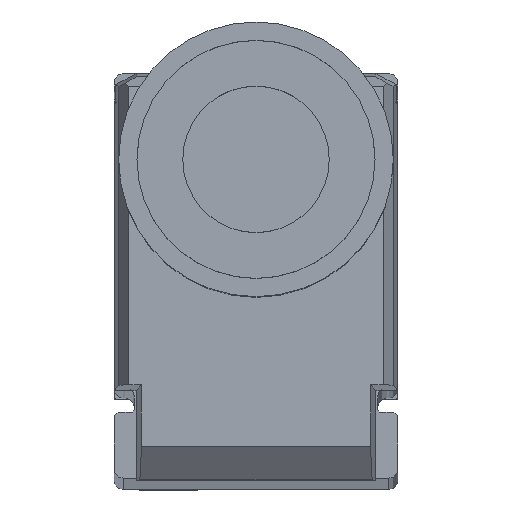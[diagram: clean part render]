
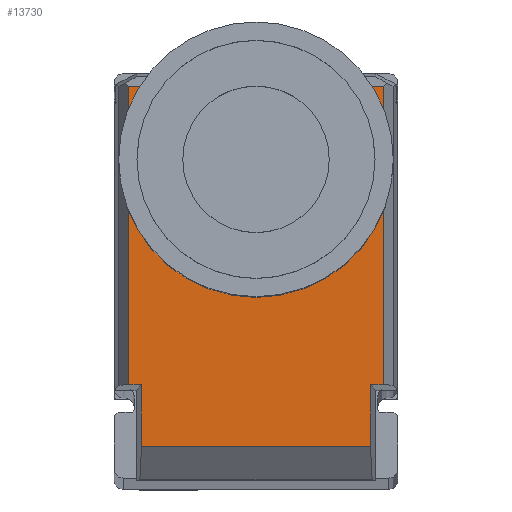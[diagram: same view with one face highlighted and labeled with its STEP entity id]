
A CAD part, top view. The second image highlights one B-rep face of the part: STEP entity #13730.
In plain terms, the highlighted planar face has unit normal (0, 0, 1) as drawn and (0, 0, -1) by its records, which use the part's own axes.
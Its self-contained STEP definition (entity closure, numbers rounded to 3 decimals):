
#43 = CARTESIAN_POINT ( 'NONE',  ( 5.6, 0., -17. ) ) ;
#576 = CARTESIAN_POINT ( 'NONE',  ( 10.502, -7.488, -17. ) ) ;
#652 = VECTOR ( 'NONE', #18926, 1000. ) ;
#731 = DIRECTION ( 'NONE',  ( 1., 0., 0. ) ) ;
#993 = EDGE_CURVE ( 'NONE', #13528, #6716, #11515, .T. ) ;
#1560 = CIRCLE ( 'NONE', #8597, 4.9 ) ;
#1691 = DIRECTION ( 'NONE',  ( 1., 0., 0. ) ) ;
#2426 = VECTOR ( 'NONE', #16534, 1000. ) ;
#2774 = ORIENTED_EDGE ( 'NONE', *, *, #993, .T. ) ;
#3087 = VECTOR ( 'NONE', #11046, 1000. ) ;
#3117 = CARTESIAN_POINT ( 'NONE',  ( 10.502, 6.952, -17. ) ) ;
#3454 = EDGE_LOOP ( 'NONE', ( #7232, #11538 ) ) ;
#3485 = VERTEX_POINT ( 'NONE', #14967 ) ;
#3945 = CARTESIAN_POINT ( 'NONE',  ( 11.038, -7.488, -17. ) ) ;
#4127 = LINE ( 'NONE', #15927, #16610 ) ;
#4505 = DIRECTION ( 'NONE',  ( -1., 0., 0. ) ) ;
#4864 = VERTEX_POINT ( 'NONE', #7562 ) ;
#4946 = ORIENTED_EDGE ( 'NONE', *, *, #12265, .T. ) ;
#5177 = DIRECTION ( 'NONE',  ( 0., 1., 0. ) ) ;
#5492 = DIRECTION ( 'NONE',  ( 1., 0., 0. ) ) ;
#5870 = CARTESIAN_POINT ( 'NONE',  ( 11.038, 6.952, -17. ) ) ;
#6500 = EDGE_CURVE ( 'NONE', #16803, #13528, #11766, .T. ) ;
#6651 = LINE ( 'NONE', #15273, #11040 ) ;
#6716 = VERTEX_POINT ( 'NONE', #19846 ) ;
#7181 = VECTOR ( 'NONE', #9128, 1000. ) ;
#7232 = ORIENTED_EDGE ( 'NONE', *, *, #7874, .F. ) ;
#7414 = ORIENTED_EDGE ( 'NONE', *, *, #7784, .T. ) ;
#7562 = CARTESIAN_POINT ( 'NONE',  ( -5.803, 6.253, -17. ) ) ;
#7784 = EDGE_CURVE ( 'NONE', #14926, #16803, #4127, .T. ) ;
#7874 = EDGE_CURVE ( 'NONE', #7929, #7882, #1560, .T. ) ;
#7882 = VERTEX_POINT ( 'NONE', #8185 ) ;
#7929 = VERTEX_POINT ( 'NONE', #19736 ) ;
#7982 = ORIENTED_EDGE ( 'NONE', *, *, #15675, .T. ) ;
#8048 = CARTESIAN_POINT ( 'NONE',  ( 5.6, 0., -17. ) ) ;
#8185 = CARTESIAN_POINT ( 'NONE',  ( 0.7, 0., -17. ) ) ;
#8534 = ORIENTED_EDGE ( 'NONE', *, *, #13461, .T. ) ;
#8597 = AXIS2_PLACEMENT_3D ( 'NONE', #43, #11467, #1691 ) ;
#8840 = EDGE_CURVE ( 'NONE', #4864, #3485, #21156, .T. ) ;
#9128 = DIRECTION ( 'NONE',  ( -1., 0., 0. ) ) ;
#9680 = DIRECTION ( 'NONE',  ( 1., 0., 0. ) ) ;
#9804 = VERTEX_POINT ( 'NONE', #3117 ) ;
#9828 = EDGE_CURVE ( 'NONE', #7882, #7929, #20404, .T. ) ;
#10268 = VERTEX_POINT ( 'NONE', #20815 ) ;
#10426 = PLANE ( 'NONE',  #15482 ) ;
#10500 = DIRECTION ( 'NONE',  ( 0., 0., 1. ) ) ;
#11040 = VECTOR ( 'NONE', #5492, 1000. ) ;
#11046 = DIRECTION ( 'NONE',  ( 0., 1., 0. ) ) ;
#11104 = LINE ( 'NONE', #576, #2426 ) ;
#11170 = EDGE_CURVE ( 'NONE', #9804, #14926, #11104, .T. ) ;
#11467 = DIRECTION ( 'NONE',  ( 0., 0., -1. ) ) ;
#11515 = LINE ( 'NONE', #20544, #7181 ) ;
#11538 = ORIENTED_EDGE ( 'NONE', *, *, #9828, .F. ) ;
#11756 = ORIENTED_EDGE ( 'NONE', *, *, #8840, .T. ) ;
#11766 = LINE ( 'NONE', #19173, #3087 ) ;
#12265 = EDGE_CURVE ( 'NONE', #10268, #4864, #6651, .T. ) ;
#12875 = DIRECTION ( 'NONE',  ( 0., 1., 0. ) ) ;
#12934 = ORIENTED_EDGE ( 'NONE', *, *, #11170, .T. ) ;
#12942 = CARTESIAN_POINT ( 'NONE',  ( -5.803, -6.253, -17. ) ) ;
#13385 = LINE ( 'NONE', #21010, #17724 ) ;
#13461 = EDGE_CURVE ( 'NONE', #6716, #10268, #13385, .T. ) ;
#13528 = VERTEX_POINT ( 'NONE', #12942 ) ;
#13730 = ADVANCED_FACE ( 'NONE', ( #17944, #18480 ), #10426, .F. ) ;
#13883 = AXIS2_PLACEMENT_3D ( 'NONE', #8048, #19454, #9680 ) ;
#14203 = LINE ( 'NONE', #5870, #652 ) ;
#14926 = VERTEX_POINT ( 'NONE', #21086 ) ;
#14967 = CARTESIAN_POINT ( 'NONE',  ( -5.803, 6.952, -17. ) ) ;
#15273 = CARTESIAN_POINT ( 'NONE',  ( 11.038, 6.253, -17. ) ) ;
#15388 = EDGE_LOOP ( 'NONE', ( #2774, #8534, #4946, #11756, #7982, #12934, #7414, #17227 ) ) ;
#15482 = AXIS2_PLACEMENT_3D ( 'NONE', #3945, #10500, #731 ) ;
#15675 = EDGE_CURVE ( 'NONE', #3485, #9804, #14203, .T. ) ;
#15927 = CARTESIAN_POINT ( 'NONE',  ( 11.038, -6.952, -17. ) ) ;
#16534 = DIRECTION ( 'NONE',  ( 0., -1., 0. ) ) ;
#16588 = CARTESIAN_POINT ( 'NONE',  ( -5.803, 6.55, -17. ) ) ;
#16610 = VECTOR ( 'NONE', #4505, 1000. ) ;
#16803 = VERTEX_POINT ( 'NONE', #18350 ) ;
#17227 = ORIENTED_EDGE ( 'NONE', *, *, #6500, .T. ) ;
#17356 = VECTOR ( 'NONE', #5177, 1000. ) ;
#17724 = VECTOR ( 'NONE', #12875, 1000. ) ;
#17944 = FACE_OUTER_BOUND ( 'NONE', #15388, .T. ) ;
#18350 = CARTESIAN_POINT ( 'NONE',  ( -5.803, -6.952, -17. ) ) ;
#18480 = FACE_BOUND ( 'NONE', #3454, .T. ) ;
#18926 = DIRECTION ( 'NONE',  ( 1., 0., 0. ) ) ;
#19173 = CARTESIAN_POINT ( 'NONE',  ( -5.803, -7.488, -17. ) ) ;
#19454 = DIRECTION ( 'NONE',  ( 0., 0., -1. ) ) ;
#19736 = CARTESIAN_POINT ( 'NONE',  ( 10.5, 0., -17. ) ) ;
#19846 = CARTESIAN_POINT ( 'NONE',  ( -9.182, -6.253, -17. ) ) ;
#20404 = CIRCLE ( 'NONE', #13883, 4.9 ) ;
#20544 = CARTESIAN_POINT ( 'NONE',  ( -9.6, -6.253, -17. ) ) ;
#20815 = CARTESIAN_POINT ( 'NONE',  ( -9.182, 6.253, -17. ) ) ;
#21010 = CARTESIAN_POINT ( 'NONE',  ( -9.182, 6.253, -17. ) ) ;
#21086 = CARTESIAN_POINT ( 'NONE',  ( 10.502, -6.952, -17. ) ) ;
#21156 = LINE ( 'NONE', #16588, #17356 ) ;
